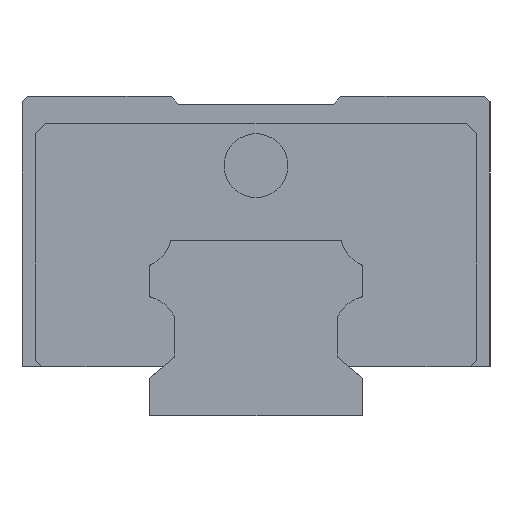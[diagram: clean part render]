
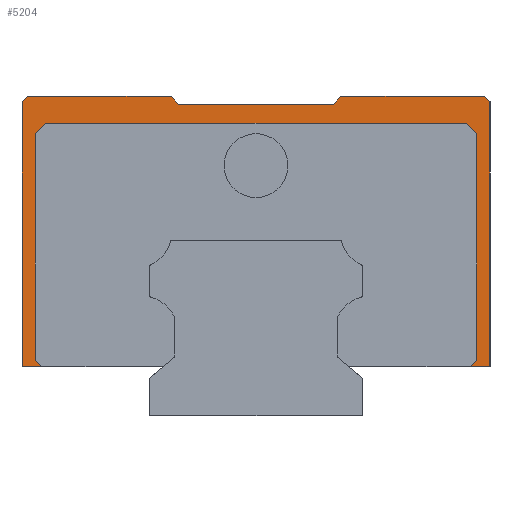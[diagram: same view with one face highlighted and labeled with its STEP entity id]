
A CAD part, left-side view. The second image highlights one B-rep face of the part: STEP entity #5204.
In plain terms, the highlighted planar face has unit normal (-1, 0, 0).
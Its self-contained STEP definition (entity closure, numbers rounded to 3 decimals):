
#83 = ORIENTED_EDGE ( 'NONE', *, *, #4113, .T. ) ;
#114 = DIRECTION ( 'NONE',  ( 0., 0.643, -0.766 ) ) ;
#116 = CARTESIAN_POINT ( 'NONE',  ( -39., 20.75, 26.5 ) ) ;
#185 = CARTESIAN_POINT ( 'NONE',  ( -39., -22., 4.6 ) ) ;
#191 = CARTESIAN_POINT ( 'NONE',  ( -39., -20.75, 26.5 ) ) ;
#215 = VECTOR ( 'NONE', #2140, 1000. ) ;
#325 = PLANE ( 'NONE',  #3380 ) ;
#392 = LINE ( 'NONE', #4004, #5428 ) ;
#398 = LINE ( 'NONE', #901, #2006 ) ;
#414 = FACE_OUTER_BOUND ( 'NONE', #2473, .T. ) ;
#425 = ORIENTED_EDGE ( 'NONE', *, *, #5219, .T. ) ;
#431 = CARTESIAN_POINT ( 'NONE',  ( -39., 22., 30. ) ) ;
#456 = LINE ( 'NONE', #431, #215 ) ;
#465 = DIRECTION ( 'NONE',  ( 0., -0.707, 0.707 ) ) ;
#492 = VERTEX_POINT ( 'NONE', #185 ) ;
#530 = VECTOR ( 'NONE', #465, 1000. ) ;
#557 = LINE ( 'NONE', #116, #530 ) ;
#561 = CARTESIAN_POINT ( 'NONE',  ( -39., 9., 4.6 ) ) ;
#578 = VECTOR ( 'NONE', #3785, 1000. ) ;
#779 = DIRECTION ( 'NONE',  ( 0., 0.707, 0.707 ) ) ;
#783 = VERTEX_POINT ( 'NONE', #2817 ) ;
#786 = EDGE_CURVE ( 'NONE', #860, #783, #4620, .T. ) ;
#825 = DIRECTION ( 'NONE',  ( 1., 0., 0. ) ) ;
#850 = CARTESIAN_POINT ( 'NONE',  ( -39., -7.333, 29.25 ) ) ;
#860 = VERTEX_POINT ( 'NONE', #3875 ) ;
#876 = CARTESIAN_POINT ( 'NONE',  ( -39., -22., 30. ) ) ;
#878 = CARTESIAN_POINT ( 'NONE',  ( -39., -7.333, 29.25 ) ) ;
#879 = VECTOR ( 'NONE', #3097, 1000. ) ;
#884 = VERTEX_POINT ( 'NONE', #1570 ) ;
#901 = CARTESIAN_POINT ( 'NONE',  ( -39., 7.333, 29.25 ) ) ;
#965 = CARTESIAN_POINT ( 'NONE',  ( -39., 19.75, 27.5 ) ) ;
#1087 = LINE ( 'NONE', #2872, #3840 ) ;
#1097 = VERTEX_POINT ( 'NONE', #3639 ) ;
#1200 = EDGE_CURVE ( 'NONE', #2099, #492, #3956, .T. ) ;
#1212 = EDGE_CURVE ( 'NONE', #3730, #2962, #3576, .T. ) ;
#1214 = ORIENTED_EDGE ( 'NONE', *, *, #2503, .T. ) ;
#1229 = EDGE_CURVE ( 'NONE', #3408, #2040, #456, .T. ) ;
#1290 = VERTEX_POINT ( 'NONE', #4943 ) ;
#1496 = EDGE_CURVE ( 'NONE', #2962, #884, #5557, .T. ) ;
#1502 = ORIENTED_EDGE ( 'NONE', *, *, #1212, .T. ) ;
#1530 = LINE ( 'NONE', #2778, #2395 ) ;
#1551 = DIRECTION ( 'NONE',  ( 0., 0., -1. ) ) ;
#1570 = CARTESIAN_POINT ( 'NONE',  ( -39., -20.75, 5.2 ) ) ;
#1614 = DIRECTION ( 'NONE',  ( 0., 0.707, -0.707 ) ) ;
#1648 = LINE ( 'NONE', #4802, #5143 ) ;
#1690 = LINE ( 'NONE', #3000, #1748 ) ;
#1718 = CARTESIAN_POINT ( 'NONE',  ( -39., 21.5, 30. ) ) ;
#1748 = VECTOR ( 'NONE', #2104, 1000. ) ;
#1754 = ORIENTED_EDGE ( 'NONE', *, *, #2163, .T. ) ;
#1893 = VERTEX_POINT ( 'NONE', #3074 ) ;
#1913 = CARTESIAN_POINT ( 'NONE',  ( -39., -22., 4.6 ) ) ;
#1931 = ORIENTED_EDGE ( 'NONE', *, *, #1200, .F. ) ;
#2006 = VECTOR ( 'NONE', #4420, 1000. ) ;
#2040 = VERTEX_POINT ( 'NONE', #4048 ) ;
#2077 = ORIENTED_EDGE ( 'NONE', *, *, #1229, .F. ) ;
#2095 = CARTESIAN_POINT ( 'NONE',  ( -39., -20.15, 4.6 ) ) ;
#2099 = VERTEX_POINT ( 'NONE', #2292 ) ;
#2104 = DIRECTION ( 'NONE',  ( 0., -1., 0. ) ) ;
#2140 = DIRECTION ( 'NONE',  ( 0., -1., 0. ) ) ;
#2163 = EDGE_CURVE ( 'NONE', #1097, #2908, #1530, .T. ) ;
#2166 = VECTOR ( 'NONE', #1614, 1000. ) ;
#2170 = CARTESIAN_POINT ( 'NONE',  ( -39., -19.75, 27.5 ) ) ;
#2199 = CARTESIAN_POINT ( 'NONE',  ( -39., 22., 29.5 ) ) ;
#2259 = VERTEX_POINT ( 'NONE', #3225 ) ;
#2286 = VECTOR ( 'NONE', #4510, 1000. ) ;
#2292 = CARTESIAN_POINT ( 'NONE',  ( -39., -22., 29.5 ) ) ;
#2365 = DIRECTION ( 'NONE',  ( 0., 1., 0. ) ) ;
#2395 = VECTOR ( 'NONE', #114, 1000. ) ;
#2473 = EDGE_LOOP ( 'NONE', ( #3713, #2664, #5507, #425, #4433, #1502, #5621, #83, #5309, #1931, #3284, #2745, #1754, #1214, #4155, #2077, #3367, #5407 ) ) ;
#2503 = EDGE_CURVE ( 'NONE', #2908, #3736, #3578, .T. ) ;
#2632 = DIRECTION ( 'NONE',  ( 0., 1., 0. ) ) ;
#2664 = ORIENTED_EDGE ( 'NONE', *, *, #4122, .T. ) ;
#2672 = EDGE_CURVE ( 'NONE', #492, #5029, #3337, .T. ) ;
#2719 = EDGE_CURVE ( 'NONE', #3408, #5601, #3812, .T. ) ;
#2745 = ORIENTED_EDGE ( 'NONE', *, *, #4762, .F. ) ;
#2778 = CARTESIAN_POINT ( 'NONE',  ( -39., -7.963, 30. ) ) ;
#2817 = CARTESIAN_POINT ( 'NONE',  ( -39., 22., 4.6 ) ) ;
#2872 = CARTESIAN_POINT ( 'NONE',  ( -39., 22., 4.6 ) ) ;
#2875 = CARTESIAN_POINT ( 'NONE',  ( -39., 7.333, 29.25 ) ) ;
#2908 = VERTEX_POINT ( 'NONE', #850 ) ;
#2962 = VERTEX_POINT ( 'NONE', #3455 ) ;
#2993 = DIRECTION ( 'NONE',  ( 0., 0., 1. ) ) ;
#3000 = CARTESIAN_POINT ( 'NONE',  ( -39., 19.75, 27.5 ) ) ;
#3034 = CARTESIAN_POINT ( 'NONE',  ( -39., 20.15, 4.6 ) ) ;
#3042 = EDGE_CURVE ( 'NONE', #3736, #2040, #398, .T. ) ;
#3074 = CARTESIAN_POINT ( 'NONE',  ( -39., 20.75, 26.5 ) ) ;
#3097 = DIRECTION ( 'NONE',  ( 0., 0., -1. ) ) ;
#3225 = CARTESIAN_POINT ( 'NONE',  ( -39., -21.5, 30. ) ) ;
#3284 = ORIENTED_EDGE ( 'NONE', *, *, #5589, .T. ) ;
#3337 = LINE ( 'NONE', #1913, #3509 ) ;
#3367 = ORIENTED_EDGE ( 'NONE', *, *, #2719, .T. ) ;
#3380 = AXIS2_PLACEMENT_3D ( 'NONE', #4868, #825, #2632 ) ;
#3408 = VERTEX_POINT ( 'NONE', #1718 ) ;
#3442 = LINE ( 'NONE', #5227, #3835 ) ;
#3455 = CARTESIAN_POINT ( 'NONE',  ( -39., -20.75, 26.5 ) ) ;
#3464 = CARTESIAN_POINT ( 'NONE',  ( -39., 21.5, 30. ) ) ;
#3486 = VECTOR ( 'NONE', #1551, 1000. ) ;
#3509 = VECTOR ( 'NONE', #5072, 1000. ) ;
#3576 = LINE ( 'NONE', #5759, #2286 ) ;
#3578 = LINE ( 'NONE', #878, #3972 ) ;
#3639 = CARTESIAN_POINT ( 'NONE',  ( -39., -7.963, 30. ) ) ;
#3713 = ORIENTED_EDGE ( 'NONE', *, *, #786, .F. ) ;
#3730 = VERTEX_POINT ( 'NONE', #2170 ) ;
#3736 = VERTEX_POINT ( 'NONE', #2875 ) ;
#3785 = DIRECTION ( 'NONE',  ( 0., 0.707, -0.707 ) ) ;
#3812 = LINE ( 'NONE', #3464, #578 ) ;
#3835 = VECTOR ( 'NONE', #2993, 1000. ) ;
#3840 = VECTOR ( 'NONE', #4668, 1000. ) ;
#3847 = VERTEX_POINT ( 'NONE', #965 ) ;
#3864 = LINE ( 'NONE', #3034, #5469 ) ;
#3875 = CARTESIAN_POINT ( 'NONE',  ( -39., 20.15, 4.6 ) ) ;
#3956 = LINE ( 'NONE', #876, #879 ) ;
#3972 = VECTOR ( 'NONE', #5322, 1000. ) ;
#4004 = CARTESIAN_POINT ( 'NONE',  ( -39., 22., 30. ) ) ;
#4048 = CARTESIAN_POINT ( 'NONE',  ( -39., 7.963, 30. ) ) ;
#4113 = EDGE_CURVE ( 'NONE', #884, #5029, #5267, .T. ) ;
#4122 = EDGE_CURVE ( 'NONE', #860, #1290, #3864, .T. ) ;
#4155 = ORIENTED_EDGE ( 'NONE', *, *, #3042, .T. ) ;
#4420 = DIRECTION ( 'NONE',  ( 0., 0.643, 0.766 ) ) ;
#4428 = DIRECTION ( 'NONE',  ( 0., 0.707, 0.707 ) ) ;
#4433 = ORIENTED_EDGE ( 'NONE', *, *, #5831, .T. ) ;
#4510 = DIRECTION ( 'NONE',  ( 0., -0.707, -0.707 ) ) ;
#4620 = LINE ( 'NONE', #561, #5297 ) ;
#4668 = DIRECTION ( 'NONE',  ( 0., 0., 1. ) ) ;
#4762 = EDGE_CURVE ( 'NONE', #1097, #2259, #392, .T. ) ;
#4802 = CARTESIAN_POINT ( 'NONE',  ( -39., -22., 29.5 ) ) ;
#4868 = CARTESIAN_POINT ( 'NONE',  ( -39., -22., 30. ) ) ;
#4943 = CARTESIAN_POINT ( 'NONE',  ( -39., 20.75, 5.2 ) ) ;
#5029 = VERTEX_POINT ( 'NONE', #2095 ) ;
#5045 = EDGE_CURVE ( 'NONE', #1290, #1893, #3442, .T. ) ;
#5072 = DIRECTION ( 'NONE',  ( 0., 1., 0. ) ) ;
#5143 = VECTOR ( 'NONE', #4428, 1000. ) ;
#5187 = CARTESIAN_POINT ( 'NONE',  ( -39., -20.75, 5.2 ) ) ;
#5204 = ADVANCED_FACE ( 'NONE', ( #414 ), #325, .F. ) ;
#5219 = EDGE_CURVE ( 'NONE', #1893, #3847, #557, .T. ) ;
#5227 = CARTESIAN_POINT ( 'NONE',  ( -39., 20.75, 5.2 ) ) ;
#5267 = LINE ( 'NONE', #5187, #2166 ) ;
#5297 = VECTOR ( 'NONE', #2365, 1000. ) ;
#5309 = ORIENTED_EDGE ( 'NONE', *, *, #2672, .F. ) ;
#5322 = DIRECTION ( 'NONE',  ( 0., 1., 0. ) ) ;
#5407 = ORIENTED_EDGE ( 'NONE', *, *, #5486, .F. ) ;
#5428 = VECTOR ( 'NONE', #5750, 1000. ) ;
#5469 = VECTOR ( 'NONE', #779, 1000. ) ;
#5486 = EDGE_CURVE ( 'NONE', #783, #5601, #1087, .T. ) ;
#5507 = ORIENTED_EDGE ( 'NONE', *, *, #5045, .T. ) ;
#5557 = LINE ( 'NONE', #191, #3486 ) ;
#5589 = EDGE_CURVE ( 'NONE', #2099, #2259, #1648, .T. ) ;
#5601 = VERTEX_POINT ( 'NONE', #2199 ) ;
#5621 = ORIENTED_EDGE ( 'NONE', *, *, #1496, .T. ) ;
#5750 = DIRECTION ( 'NONE',  ( 0., -1., 0. ) ) ;
#5759 = CARTESIAN_POINT ( 'NONE',  ( -39., -19.75, 27.5 ) ) ;
#5831 = EDGE_CURVE ( 'NONE', #3847, #3730, #1690, .T. ) ;
